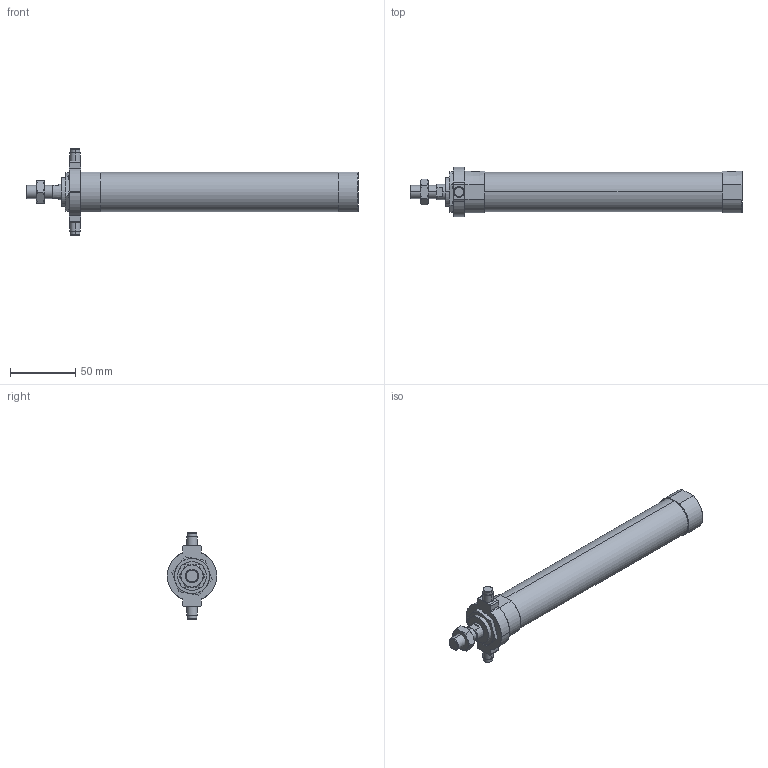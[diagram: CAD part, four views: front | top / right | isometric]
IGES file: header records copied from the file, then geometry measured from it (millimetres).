
Start section: SolidWorks IGES file using analytic representation for surfaces
Global section: file name: C:\Users\Toshiba\Desktop\JGND2-25-150-T.IGS; native system: SolidWorks 2014; preprocessor: SolidWorks 2014; author: Toshiba; date: 160804.104306; units: millimetre
Bounding box: 254 x 38 x 66 mm (x, y, z)
Surface area: 31065.7 mm2 (no closed solid volume)
Topology: 0 solids, 0 shells, 128 faces, 2096 edges, 2092 vertices
Faces by surface type: bspline 69, revolution 59
